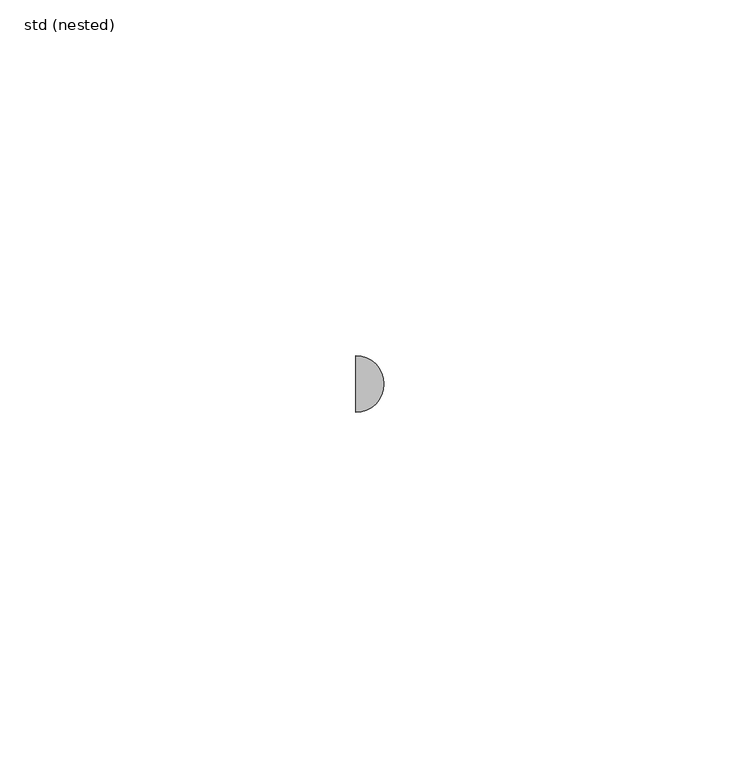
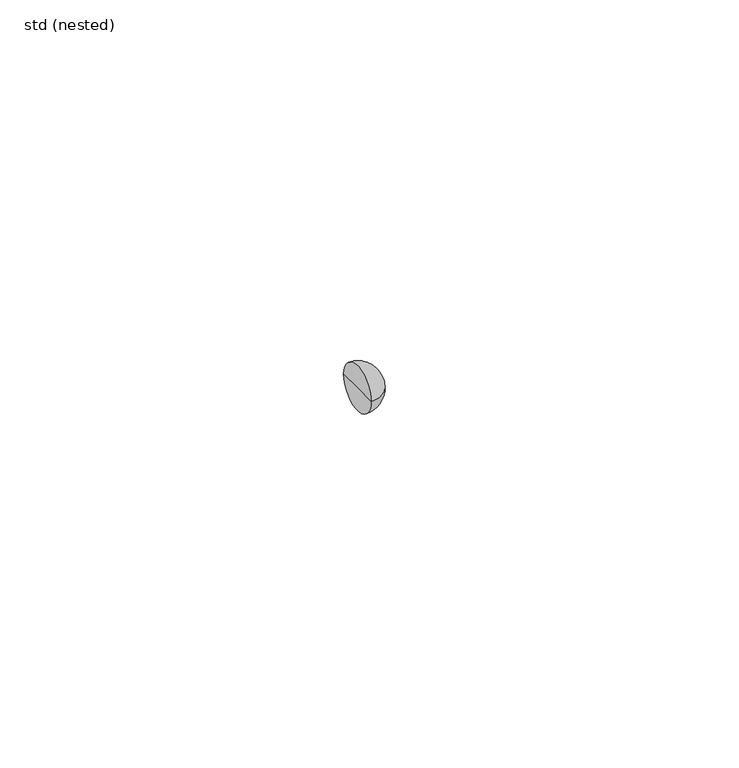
"""IFC4 building model written with IfcOpenShell, lengths in millimetres: pipe fitting geometry, ZZZ_do not use_PIF_ST_UN_ACO pipe multireducer_ACO : std (nested)."""

from ifc_helpers import new_model, si_unit, point, frame, origin, place, context, project, spatial, circle_curve, ellipse_curve, trimmed, source, transform, mapped, element, save
from ifc_brep_helpers import plane_surface, revolved_surface, advanced_brep


def std_nested_fe5946f3(model_context):
    return source(origin(), model_context, "Body", "AdvancedBrep", [
        advanced_brep(
        [(-117.5, 0.0, 0.0), (-117.5, 4.0, 0.0), (-117.5, -4.0, 0.0), (-113.5, 0.0, 0.0)],
        [
            (0, 1),
            (1, 2, circle_curve(frame((-117.5, 0.0, 0.0), z_axis=(-1.0, 0.0, 0.0), x_axis=(0.0, 1.0, 0.0)), 4.0)),
            (2, 0),
            (2, 1, circle_curve(frame((-117.5, 0.0, 0.0), z_axis=(-1.0, 0.0, 0.0), x_axis=(0.0, 1.0, 0.0)), 4.0)),
            (1, 3, circle_curve(frame((-117.5, 0.0, 0.0), z_axis=(0.0, 0.0, -1.0), x_axis=(1.0, 0.0, 0.0)), 4.0)),
            (3, 2, circle_curve(frame((-117.5, 0.0, 0.0), z_axis=(0.0, 0.0, -1.0), x_axis=(1.0, 0.0, 0.0)), 4.0)),
        ],
        [
            plane_surface(frame((-117.5, 0.0, 0.0), z_axis=(-1.0, 0.0, 0.0), x_axis=(0.0, 1.0, 0.0))),
            revolved_surface(trimmed(ellipse_curve(frame((-117.5, 0.0, 0.0), z_axis=(0.0, 0.0, 1.0), x_axis=(1.0, 0.0, 0.0)), 4.0, 4.0), [point((-113.5, 0.0, 0.0))], [point((-117.5, 4.0, 0.0))], True, "CARTESIAN"), (-131.1508039, 0.0, 0.0), (-1.0, 0.0, 0.0)),
        ],
        [
            (0, [[1, 2, 3]]),
            (0, [[-3, 4, -1]]),
            (1, [[-2, 5, 6]]),
            (1, [[-4, -6, -5]]),
        ],
    ),
    ])


if __name__ == "__main__":
    model = new_model("IFC4")
    model_context = context("Model", 3, world=origin())
    ifc_project = project(units=[si_unit("LENGTHUNIT", "METRE", prefix="MILLI")], contexts=[model_context])
    site = spatial("IfcSite", under=ifc_project)
    building = spatial("IfcBuilding", under=site)
    placement = place(None, origin())
    std_nested_shape = std_nested_fe5946f3(model_context)
    element("IfcPipeFitting", 1, ObjectType="ZZZ_do not use_PIF_ST_UN_ACO pipe multireducer_ACO : std (nested)", at=placement, inside=building, context=model_context, shape_type="MappedRepresentation", body=[
        mapped(std_nested_shape, transform((0.0, 0.0, 0.0), x_axis=(1.0, 0.0, 0.0), y_axis=(0.0, 1.0, 0.0), z_axis=(0.0, 0.0, 1.0))),
    ])
    save(model, "model.ifc")
